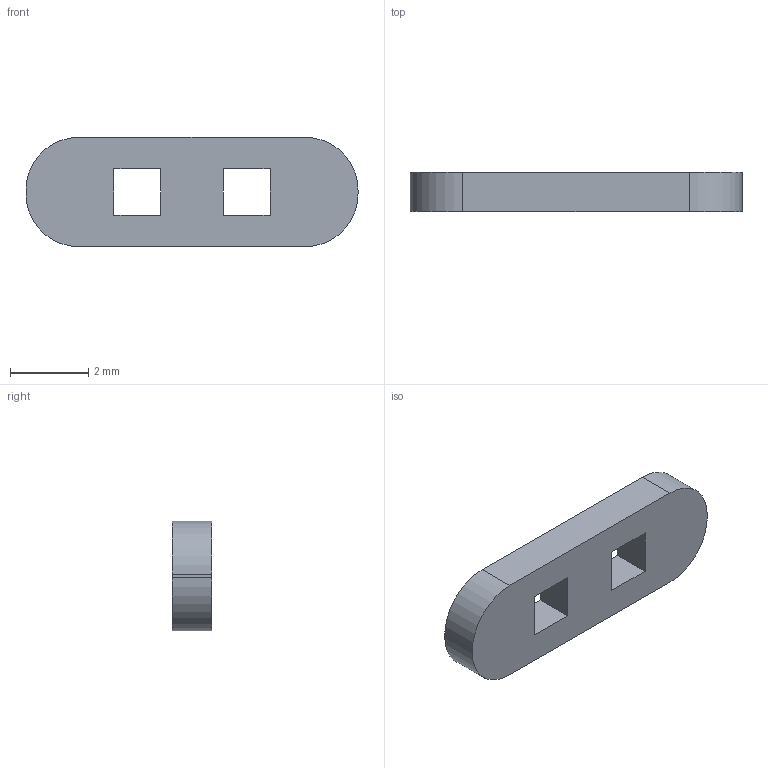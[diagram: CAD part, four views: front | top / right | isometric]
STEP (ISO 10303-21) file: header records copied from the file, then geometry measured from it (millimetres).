
FILE_DESCRIPTION(('Open CASCADE Model'),'2;1');
FILE_NAME('Open CASCADE Shape Model','2026-11-01T16:34:13',('Author'),( 'Open CASCADE'),'Open CASCADE STEP processor 8.0','build123d', 'Unknown');
FILE_SCHEMA(('AUTOMOTIVE_DESIGN { 1 0 10303 214 1 1 1 1 }'));
Length unit declared in the file: millimetre
Products named in the file (1): SOLID
Bounding box: 8.5 x 1 x 2.8 mm (x, y, z)
Volume: 19.4 mm3; surface area: 68.6 mm2
Topology: 1 solids, 1 shells, 18 faces, 48 edges, 32 vertices
Faces by surface type: plane 14, cylinder 4
Entity records: 1182 total; most frequent: CARTESIAN_POINT 251, DIRECTION 154, ORIENTED_EDGE 96, LINE 96, VECTOR 96, PCURVE 96, DEFINITIONAL_REPRESENTATION 96, EDGE_CURVE 48
